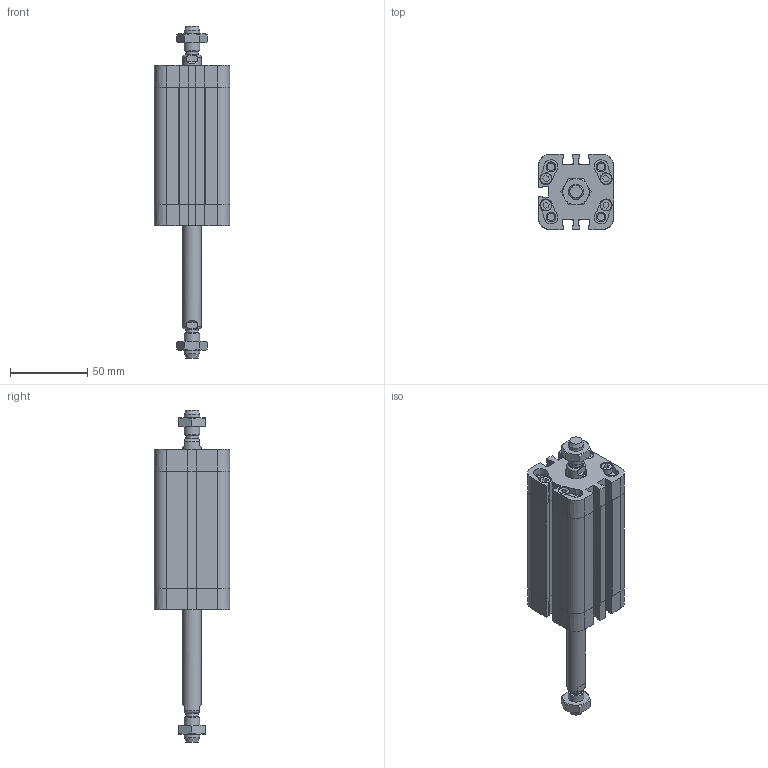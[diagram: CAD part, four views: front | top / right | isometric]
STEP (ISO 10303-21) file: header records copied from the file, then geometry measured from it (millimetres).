
FILE_DESCRIPTION(/* description */ ('Unknown'),/* implementation_level */ '2;1');
FILE_NAME(/* name */ 'ZBF 32_60',/* time_stamp */ '2024-11-18T11:32:48+01:00',/* author */ ('Unknown'),/* organization */ ('Unknown'),/* preprocessor_version */ 'ST-DEVELOPER v16.7',/* originating_system */ 'Solid Edge',/* authorisation */ 'Unknown');
FILE_SCHEMA (('AUTOMOTIVE_DESIGN {1 0 10303 214 3 1 1}'));
Length unit declared in the file: millimetre
Products named in the file (5): ZBF 32_60; Profilrohr; Kolbenstange; Kit; Mutter
Assembly tree (7 placements, depth 2):
  ZBF 32_60
    Profilrohr
    Kolbenstange  x2
    Kit  x2
    Mutter  x2
Bounding box: 49 x 49 x 215 mm (x, y, z)
Volume: 185689.9 mm3; surface area: 67522.7 mm2
Topology: 7 solids, 15 shells, 807 faces, 2061 edges, 1342 vertices
Faces by surface type: plane 368, cylinder 197, bspline 112, cone 74, torus 56
Full cylindrical faces by diameter (mm): 2.5 x2, 4.917 x8, 5.2 x8, 7.5 x8, 7.9 x2, 8.566 x2, 8.647 x2, 10 x2, 12 x2, 12.54 x2, 13.7 x2, 14 x2, 16.32 x2, 16.5 x2, 32 x3
Entity records: 16333 total; most frequent: CARTESIAN_POINT 3395, ORIENTED_EDGE 2172, DIRECTION 2039, EDGE_CURVE 1086, VERTEX_POINT 745, AXIS2_PLACEMENT_3D 709, LINE 621, VECTOR 621
